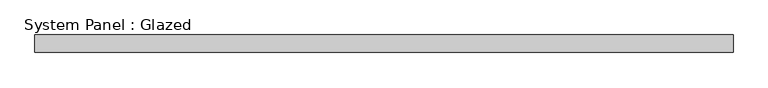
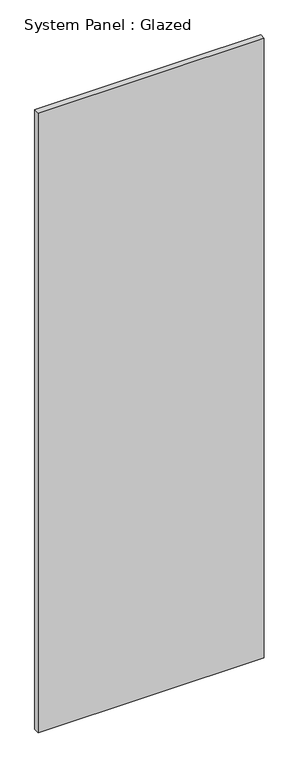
"""IFC4 building model written with IfcOpenShell, lengths in millimetres: plate geometry, System Panel : Glazed."""

from ifc_helpers import new_model, si_unit, origin, origin_with_axes, place, context, project, spatial, polyline, outline, extrude, source, transform, mapped, element, save


def system_panel_glazed_39c3c0fe(model_context):
    return source(origin(), model_context, "Body", "SweptSolid", [
        extrude(outline(polyline([(509.5875001, -44.45), (-509.5875001, -44.45), (-509.5875001, -19.05), (509.5875001, -19.05), (509.5875001, -44.45)])), origin_with_axes(), (0.0, 0.0, 1.0), 2952.75),
    ])


if __name__ == "__main__":
    model = new_model("IFC4")
    model_context = context("Model", 3, world=origin())
    ifc_project = project(units=[si_unit("LENGTHUNIT", "METRE", prefix="MILLI")], contexts=[model_context])
    site = spatial("IfcSite", under=ifc_project)
    building = spatial("IfcBuilding", under=site)
    placement = place(None, origin())
    system_panel_glazed_shape = system_panel_glazed_39c3c0fe(model_context)
    element("IfcPlate", 1, ObjectType="System Panel : Glazed", at=placement, inside=building, context=model_context, shape_type="MappedRepresentation", body=[
        mapped(system_panel_glazed_shape, transform((0.0, 0.0, 0.0), x_axis=(1.0, 0.0, 0.0), y_axis=(0.0, 1.0, 0.0), z_axis=(0.0, 0.0, 1.0))),
    ])
    save(model, "model.ifc")
